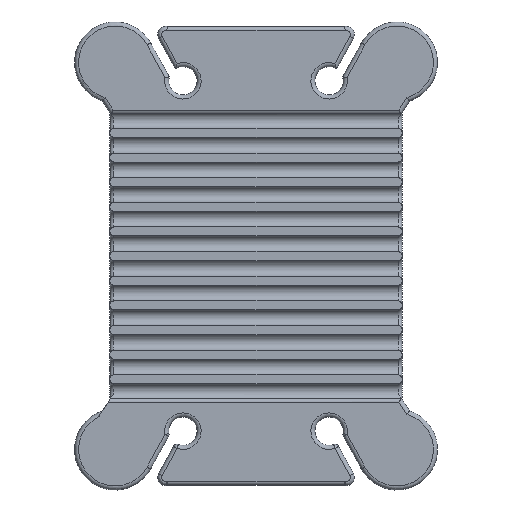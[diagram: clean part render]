
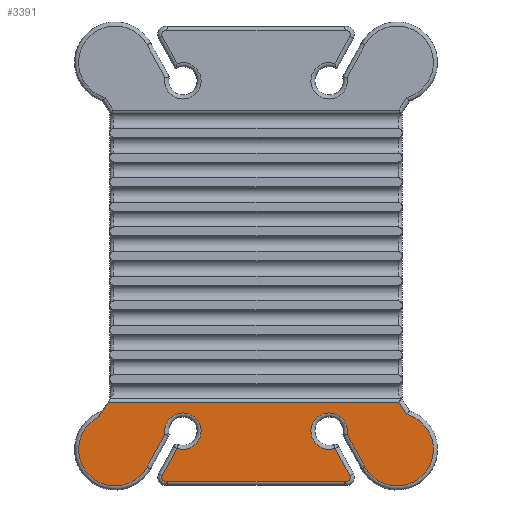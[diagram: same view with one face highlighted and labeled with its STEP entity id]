
A CAD part, top view. The second image highlights one B-rep face of the part: STEP entity #3391.
In plain terms, the highlighted planar face has unit normal (0, 0, 1).
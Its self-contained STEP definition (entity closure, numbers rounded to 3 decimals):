
#60=PLANE('',#3844);
#250=LINE('',#5640,#435);
#255=LINE('',#5668,#440);
#263=LINE('',#5760,#448);
#267=LINE('',#5799,#452);
#269=LINE('',#5802,#454);
#273=LINE('',#5833,#458);
#277=LINE('',#5886,#462);
#374=LINE('',#6890,#559);
#435=VECTOR('',#4169,10.);
#440=VECTOR('',#4202,10.);
#448=VECTOR('',#4266,10.);
#452=VECTOR('',#4300,10.);
#454=VECTOR('',#4304,10.);
#458=VECTOR('',#4322,10.);
#462=VECTOR('',#4348,10.);
#559=VECTOR('',#4903,10.);
#807=FACE_OUTER_BOUND('',#1006,.T.);
#1006=EDGE_LOOP('',(#3082,#3083,#3084,#3085,#3086,#3087,#3088,#3089,#3090,
#3091,#3092,#3093,#3094,#3095,#3096,#3097));
#1174=CIRCLE('',#3545,1.);
#1193=CIRCLE('',#3573,1.);
#1198=CIRCLE('',#3583,4.5);
#1203=CIRCLE('',#3591,2.25);
#1206=CIRCLE('',#3594,0.5);
#1212=CIRCLE('',#3605,0.5);
#1214=CIRCLE('',#3609,2.25);
#1217=CIRCLE('',#3613,4.5);
#1396=VERTEX_POINT('',#5573);
#1402=VERTEX_POINT('',#5593);
#1412=VERTEX_POINT('',#5637);
#1413=VERTEX_POINT('',#5639);
#1415=VERTEX_POINT('',#5644);
#1417=VERTEX_POINT('',#5648);
#1422=VERTEX_POINT('',#5667);
#1434=VERTEX_POINT('',#5736);
#1436=VERTEX_POINT('',#5740);
#1438=VERTEX_POINT('',#5748);
#1441=VERTEX_POINT('',#5758);
#1443=VERTEX_POINT('',#5767);
#1446=VERTEX_POINT('',#5794);
#1452=VERTEX_POINT('',#5831);
#1455=VERTEX_POINT('',#5869);
#1456=VERTEX_POINT('',#5871);
#1792=EDGE_CURVE('',#1412,#1413,#250,.T.);
#1797=EDGE_CURVE('',#1417,#1415,#1174,.T.);
#1806=EDGE_CURVE('',#1413,#1422,#255,.T.);
#1826=EDGE_CURVE('',#1436,#1434,#1193,.T.);
#1835=EDGE_CURVE('',#1441,#1438,#263,.T.);
#1837=EDGE_CURVE('',#1422,#1441,#1198,.T.);
#1844=EDGE_CURVE('',#1438,#1443,#1203,.T.);
#1847=EDGE_CURVE('',#1446,#1436,#1206,.T.);
#1849=EDGE_CURVE('',#1443,#1446,#267,.T.);
#1851=EDGE_CURVE('',#1434,#1417,#269,.T.);
#1860=EDGE_CURVE('',#1452,#1402,#273,.T.);
#1862=EDGE_CURVE('',#1415,#1452,#1212,.T.);
#1867=EDGE_CURVE('',#1402,#1396,#1214,.T.);
#1870=EDGE_CURVE('',#1455,#1456,#1217,.T.);
#1873=EDGE_CURVE('',#1396,#1455,#277,.T.);
#2160=EDGE_CURVE('',#1412,#1456,#374,.T.);
#3082=ORIENTED_EDGE('',*,*,#1792,.F.);
#3083=ORIENTED_EDGE('',*,*,#2160,.T.);
#3084=ORIENTED_EDGE('',*,*,#1870,.F.);
#3085=ORIENTED_EDGE('',*,*,#1873,.F.);
#3086=ORIENTED_EDGE('',*,*,#1867,.F.);
#3087=ORIENTED_EDGE('',*,*,#1860,.F.);
#3088=ORIENTED_EDGE('',*,*,#1862,.F.);
#3089=ORIENTED_EDGE('',*,*,#1797,.F.);
#3090=ORIENTED_EDGE('',*,*,#1851,.F.);
#3091=ORIENTED_EDGE('',*,*,#1826,.F.);
#3092=ORIENTED_EDGE('',*,*,#1847,.F.);
#3093=ORIENTED_EDGE('',*,*,#1849,.F.);
#3094=ORIENTED_EDGE('',*,*,#1844,.F.);
#3095=ORIENTED_EDGE('',*,*,#1835,.F.);
#3096=ORIENTED_EDGE('',*,*,#1837,.F.);
#3097=ORIENTED_EDGE('',*,*,#1806,.F.);
#3391=ADVANCED_FACE('',(#807),#60,.T.);
#3545=AXIS2_PLACEMENT_3D('',#5650,#4180,#4181);
#3573=AXIS2_PLACEMENT_3D('',#5742,#4244,#4245);
#3583=AXIS2_PLACEMENT_3D('',#5763,#4270,#4271);
#3591=AXIS2_PLACEMENT_3D('',#5776,#4288,#4289);
#3594=AXIS2_PLACEMENT_3D('',#5796,#4294,#4295);
#3605=AXIS2_PLACEMENT_3D('',#5850,#4324,#4325);
#3609=AXIS2_PLACEMENT_3D('',#5865,#4334,#4335);
#3613=AXIS2_PLACEMENT_3D('',#5872,#4342,#4343);
#3844=AXIS2_PLACEMENT_3D('',#6889,#4901,#4902);
#4169=DIRECTION('',(1.,0.,0.));
#4180=DIRECTION('center_axis',(0.,0.,1.));
#4181=DIRECTION('ref_axis',(-0.076,0.997,0.));
#4202=DIRECTION('',(0.547,-0.837,0.));
#4244=DIRECTION('center_axis',(0.,0.,1.));
#4245=DIRECTION('ref_axis',(0.076,0.997,0.));
#4266=DIRECTION('',(-0.482,0.876,0.));
#4270=DIRECTION('center_axis',(0.,0.,-1.));
#4271=DIRECTION('ref_axis',(0.77,-0.638,0.));
#4288=DIRECTION('center_axis',(0.,0.,1.));
#4289=DIRECTION('ref_axis',(-0.8,0.6,0.));
#4294=DIRECTION('center_axis',(0.,0.,-1.));
#4295=DIRECTION('ref_axis',(0.81,-0.587,0.));
#4300=DIRECTION('',(0.482,-0.876,0.));
#4304=DIRECTION('',(-1.,0.,0.));
#4322=DIRECTION('',(0.482,0.876,0.));
#4324=DIRECTION('center_axis',(0.,0.,-1.));
#4325=DIRECTION('ref_axis',(-0.81,-0.587,0.));
#4334=DIRECTION('center_axis',(0.,0.,1.));
#4335=DIRECTION('ref_axis',(0.8,0.6,0.));
#4342=DIRECTION('center_axis',(0.,0.,-1.));
#4343=DIRECTION('ref_axis',(-0.77,-0.638,0.));
#4348=DIRECTION('',(-0.482,-0.876,0.));
#4901=DIRECTION('center_axis',(0.,0.,1.));
#4902=DIRECTION('ref_axis',(1.,0.,0.));
#4903=DIRECTION('',(-0.547,-0.837,0.));
#5573=CARTESIAN_POINT('',(-11.679,-21.844,3.));
#5593=CARTESIAN_POINT('',(-10.184,-23.569,3.));
#5637=CARTESIAN_POINT('',(-18.681,-17.864,3.));
#5639=CARTESIAN_POINT('',(17.187,-17.864,3.));
#5640=CARTESIAN_POINT('',(-18.465,-17.864,3.));
#5644=CARTESIAN_POINT('',(-11.507,-27.645,3.));
#5648=CARTESIAN_POINT('',(-11.356,-27.634,3.));
#5650=CARTESIAN_POINT('Origin',(-11.356,-28.634,3.));
#5667=CARTESIAN_POINT('',(18.172,-19.373,3.));
#5668=CARTESIAN_POINT('',(10.868,-8.184,3.));
#5736=CARTESIAN_POINT('',(10.46,-27.634,3.));
#5740=CARTESIAN_POINT('',(10.611,-27.645,3.));
#5742=CARTESIAN_POINT('Origin',(10.46,-28.634,3.));
#5748=CARTESIAN_POINT('',(10.782,-21.844,3.));
#5758=CARTESIAN_POINT('',(12.994,-25.867,3.));
#5760=CARTESIAN_POINT('',(4.788,-10.937,3.));
#5763=CARTESIAN_POINT('Origin',(16.937,-23.7,3.));
#5767=CARTESIAN_POINT('',(9.288,-23.569,3.));
#5776=CARTESIAN_POINT('Origin',(8.57,-21.437,3.));
#5794=CARTESIAN_POINT('',(11.124,-26.91,3.));
#5796=CARTESIAN_POINT('Origin',(10.686,-27.151,3.));
#5799=CARTESIAN_POINT('',(4.067,-14.069,3.));
#5802=CARTESIAN_POINT('',(-5.923,-27.634,3.));
#5831=CARTESIAN_POINT('',(-12.021,-26.91,3.));
#5833=CARTESIAN_POINT('',(-3.933,-12.194,3.));
#5850=CARTESIAN_POINT('Origin',(-11.583,-27.151,3.));
#5865=CARTESIAN_POINT('Origin',(-9.466,-21.437,3.));
#5869=CARTESIAN_POINT('',(-13.89,-25.867,3.));
#5871=CARTESIAN_POINT('',(-19.871,-19.688,3.));
#5872=CARTESIAN_POINT('Origin',(-17.834,-23.7,3.));
#5886=CARTESIAN_POINT('',(-6.836,-13.032,3.));
#6889=CARTESIAN_POINT('Origin',(-0.448,0.169,3.));
#6890=CARTESIAN_POINT('',(-18.465,-17.533,3.));
